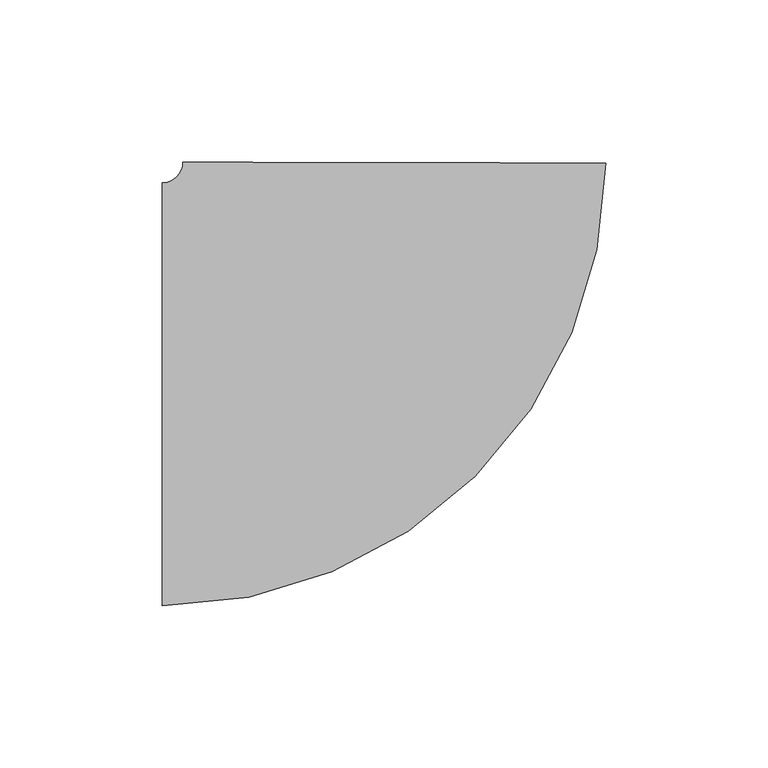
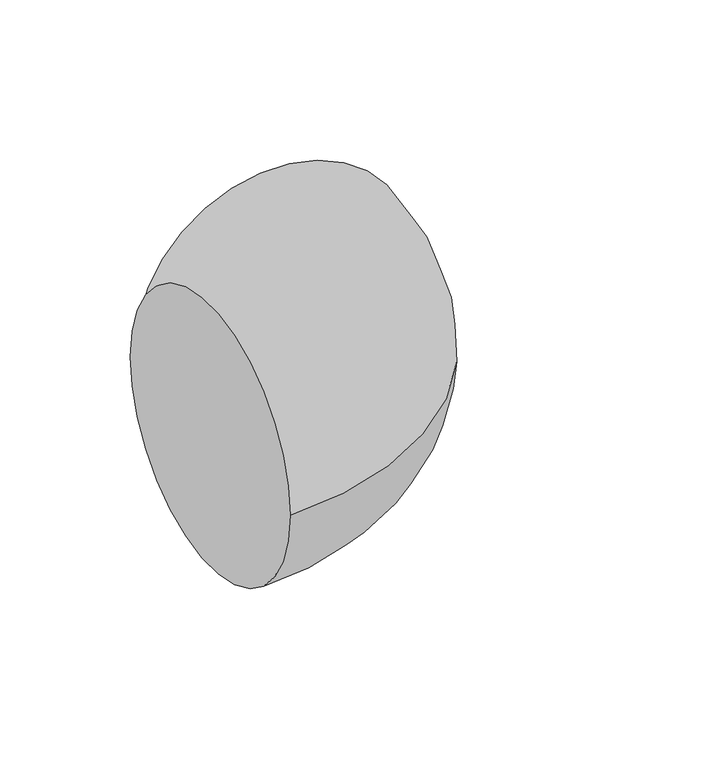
"""IFC4 building model written with IfcOpenShell, lengths in millimetres: pipe fitting geometry, M_Codo - Genérico : Estándar."""

from ifc_helpers import new_model, si_unit, point, frame, origin, place, context, project, spatial, circle_curve, ellipse_curve, trimmed, source, transform, mapped, element, save
from ifc_brep_helpers import plane_surface, revolved_surface, advanced_brep


def pipe_fitting_32a69fdb(model_context):
    return source(origin(), model_context, "Body", "AdvancedBrep", [
        advanced_brep(
        [(-71.2967519, -65.0875, 0.0), (-71.2967519, 65.0875, 0.0), (65.2279826, 71.1682498, 0.0), (-64.9467643, 71.4249767, 0.0)],
        [
            (0, 1, circle_curve(frame((-71.2967519, 0.0, 0.0), z_axis=(-1.0, 0.0, 0.0), x_axis=(0.0, 1.0, 0.0)), 65.0875)),
            (1, 0, circle_curve(frame((-71.2967519, 0.0, 0.0), z_axis=(-1.0, 0.0, 0.0), x_axis=(0.0, 1.0, 0.0)), 65.0875)),
            (2, 3, circle_curve(frame((0.1406091, 71.2966133, 0.0), z_axis=(0.001972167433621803, 0.9999980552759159, 0.0), x_axis=(-0.9999980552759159, 0.001972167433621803, 0.0)), 65.0875)),
            (3, 2, circle_curve(frame((0.1406091, 71.2966133, 0.0), z_axis=(0.001972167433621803, 0.9999980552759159, 0.0), x_axis=(-0.9999980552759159, 0.001972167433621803, 0.0)), 65.0875)),
            (3, 1, circle_curve(frame((-71.2967519, 71.4375, 0.0), z_axis=(0.0, 0.0, -1.0), x_axis=(0.0, -1.0, 0.0)), 6.35)),
            (0, 2, circle_curve(frame((-71.2967519, 71.4375, 0.0), z_axis=(0.0, 0.0, 1.0), x_axis=(0.0, -1.0, 0.0)), 136.525)),
        ],
        [
            plane_surface(frame((-71.2967519, 0.0, 0.0), z_axis=(-1.0, 0.0, 0.0), x_axis=(0.0, 0.0, 1.0))),
            plane_surface(frame((0.1406091, 71.2966133, 0.0), z_axis=(0.00197216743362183, 0.9999980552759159, 0.0), x_axis=(0.0, 0.0, 1.0))),
            revolved_surface(trimmed(ellipse_curve(frame((-71.2967519, 0.0, 0.0), z_axis=(-1.0, 0.0, 0.0), x_axis=(0.0, 1.0, 0.0)), 65.0875, 65.0875), [point((-71.2967519, -65.0875, 0.0))], [point((-71.2967519, 65.0875, 0.0))], True, "CARTESIAN"), (-71.2967519, 71.4375, 0.0), (0.0, 0.0, 1.0)),
            revolved_surface(trimmed(ellipse_curve(frame((-71.2967519, 0.0, 0.0), z_axis=(-1.0, 0.0, 0.0), x_axis=(0.0, 1.0, 0.0)), 65.0875, 65.0875), [point((-71.2967519, 65.0875, 0.0))], [point((-71.2967519, -65.0875, 0.0))], True, "CARTESIAN"), (-71.2967519, 71.4375, 0.0), (0.0, 0.0, 1.0)),
        ],
        [
            (0, [[1, 2]]),
            (1, [[3, 4]]),
            (2, [[5, -1, 6, -4]]),
            (3, [[-6, -2, -5, -3]]),
        ],
    ),
    ])


if __name__ == "__main__":
    model = new_model("IFC4")
    model_context = context("Model", 3, world=origin())
    ifc_project = project(units=[si_unit("LENGTHUNIT", "METRE", prefix="MILLI")], contexts=[model_context])
    site = spatial("IfcSite", under=ifc_project)
    building = spatial("IfcBuilding", under=site)
    placement = place(None, origin())
    pipe_fitting_shape = pipe_fitting_32a69fdb(model_context)
    element("IfcPipeFitting", 1, ObjectType="M_Codo - Genérico : Estándar", at=placement, inside=building, context=model_context, shape_type="MappedRepresentation", body=[
        mapped(pipe_fitting_shape, transform((0.0, 0.0, 0.0), x_axis=(1.0, 0.0, 0.0), y_axis=(0.0, 1.0, 0.0), z_axis=(0.0, 0.0, 1.0))),
    ])
    save(model, "model.ifc")
